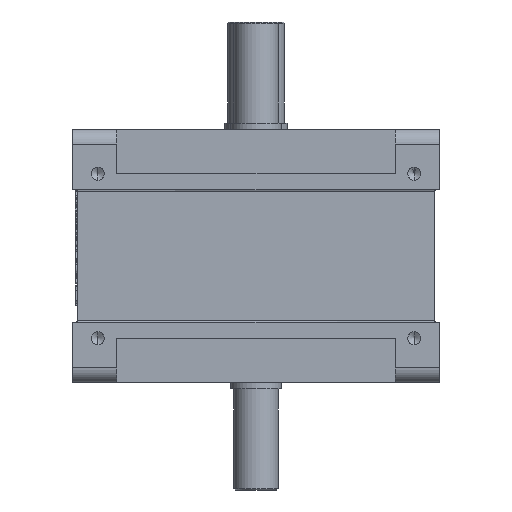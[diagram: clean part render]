
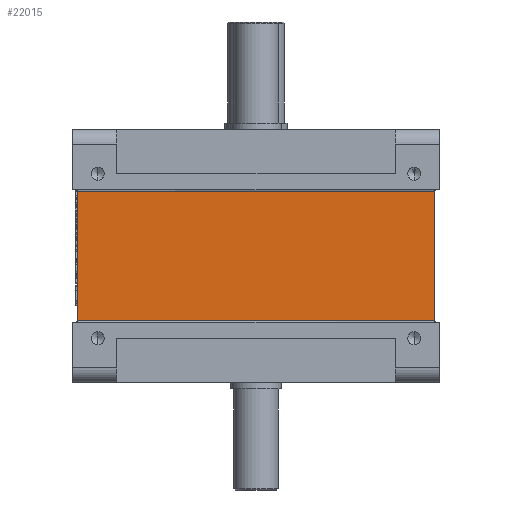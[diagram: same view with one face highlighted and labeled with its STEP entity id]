
A CAD part, front view. The second image highlights one B-rep face of the part: STEP entity #22015.
In plain terms, the highlighted planar face has unit normal (0, -1, 0).
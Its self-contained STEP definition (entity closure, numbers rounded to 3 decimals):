
#3188 = EDGE_LOOP ( 'NONE', ( #31974, #4794, #18987, #24743 ) ) ;
#3898 = AXIS2_PLACEMENT_3D ( 'NONE', #40131, #19662, #48210 ) ;
#4794 = ORIENTED_EDGE ( 'NONE', *, *, #47318, .T. ) ;
#6670 = VECTOR ( 'NONE', #44601, 1000. ) ;
#7971 = FACE_OUTER_BOUND ( 'NONE', #3188, .T. ) ;
#12922 = CARTESIAN_POINT ( 'NONE',  ( 141.304, -291.304, -51.333 ) ) ;
#13114 = VERTEX_POINT ( 'NONE', #23005 ) ;
#16017 = CARTESIAN_POINT ( 'NONE',  ( 145., -291.304, 51.333 ) ) ;
#16030 = LINE ( 'NONE', #34717, #37885 ) ;
#17465 = CARTESIAN_POINT ( 'NONE',  ( 141.304, -291.304, -52.5 ) ) ;
#18987 = ORIENTED_EDGE ( 'NONE', *, *, #44777, .F. ) ;
#19662 = DIRECTION ( 'NONE',  ( 0., -1., 0. ) ) ;
#22015 = ADVANCED_FACE ( 'NONE', ( #7971 ), #44179, .T. ) ;
#23005 = CARTESIAN_POINT ( 'NONE',  ( -141.304, -291.304, -51.333 ) ) ;
#23509 = CARTESIAN_POINT ( 'NONE',  ( -141.304, -291.304, -51.333 ) ) ;
#24743 = ORIENTED_EDGE ( 'NONE', *, *, #43188, .T. ) ;
#27318 = CARTESIAN_POINT ( 'NONE',  ( -141.304, -291.304, 51.333 ) ) ;
#29562 = VECTOR ( 'NONE', #51951, 1000. ) ;
#29845 = LINE ( 'NONE', #16017, #6670 ) ;
#30054 = CARTESIAN_POINT ( 'NONE',  ( 141.304, -291.304, 51.333 ) ) ;
#30137 = DIRECTION ( 'NONE',  ( 0., 0., -1. ) ) ;
#31974 = ORIENTED_EDGE ( 'NONE', *, *, #49267, .F. ) ;
#34717 = CARTESIAN_POINT ( 'NONE',  ( -141.304, -291.304, -52.5 ) ) ;
#37885 = VECTOR ( 'NONE', #38725, 1000. ) ;
#38725 = DIRECTION ( 'NONE',  ( 0., 0., 1. ) ) ;
#39088 = LINE ( 'NONE', #23509, #29562 ) ;
#40131 = CARTESIAN_POINT ( 'NONE',  ( -141.304, -291.304, -52.5 ) ) ;
#40797 = VECTOR ( 'NONE', #30137, 1000. ) ;
#41933 = VERTEX_POINT ( 'NONE', #27318 ) ;
#42037 = LINE ( 'NONE', #17465, #40797 ) ;
#43188 = EDGE_CURVE ( 'NONE', #46119, #41933, #29845, .T. ) ;
#44179 = PLANE ( 'NONE',  #3898 ) ;
#44601 = DIRECTION ( 'NONE',  ( -1., 0., 0. ) ) ;
#44777 = EDGE_CURVE ( 'NONE', #46119, #49107, #42037, .T. ) ;
#46119 = VERTEX_POINT ( 'NONE', #30054 ) ;
#47318 = EDGE_CURVE ( 'NONE', #13114, #49107, #39088, .T. ) ;
#48210 = DIRECTION ( 'NONE',  ( 0., 0., -1. ) ) ;
#49107 = VERTEX_POINT ( 'NONE', #12922 ) ;
#49267 = EDGE_CURVE ( 'NONE', #13114, #41933, #16030, .T. ) ;
#51951 = DIRECTION ( 'NONE',  ( 1., 0., 0. ) ) ;
